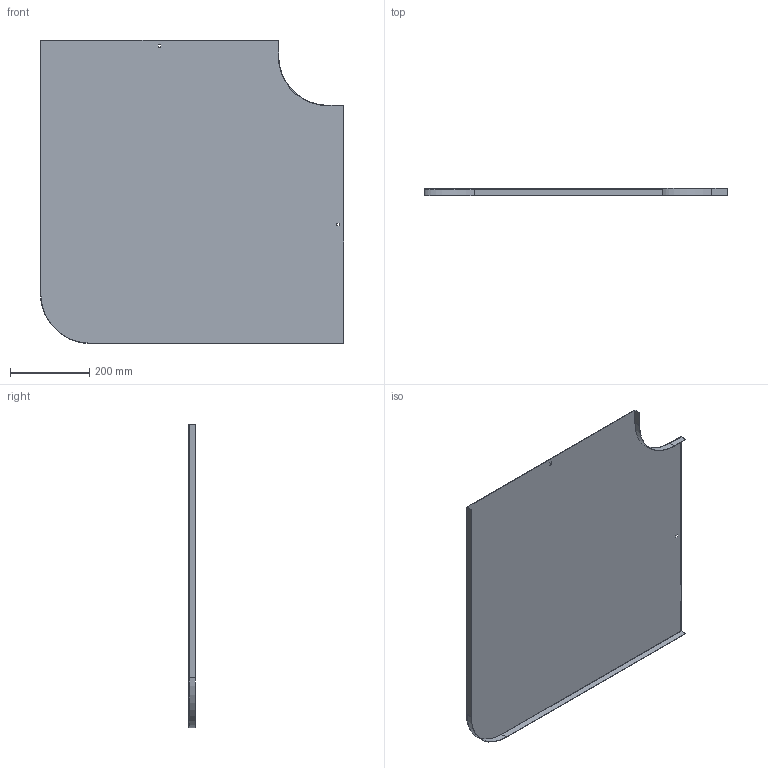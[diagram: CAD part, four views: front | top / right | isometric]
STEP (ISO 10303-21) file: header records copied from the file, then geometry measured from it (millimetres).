
FILE_DESCRIPTION (( 'STEP AP214' ), '1' );
FILE_NAME ('OP9_600.step', '2025-07-16T09:15:26', ( '' ), ( '' ), 'SwSTEP 2.0', 'SolidWorks 2023', '' );
FILE_SCHEMA (( 'AUTOMOTIVE_DESIGN' ));
Length unit declared in the file: millimetre
Products named in the file (1): OP9_600
Bounding box: 766 x 17 x 766 mm (x, y, z)
Volume: 587711.9 mm3; surface area: 1178496.5 mm2
Topology: 1 solids, 1 shells, 26 faces, 72 edges, 48 vertices
Faces by surface type: plane 22, cylinder 4
Entity records: 855 total; most frequent: CARTESIAN_POINT 147, ORIENTED_EDGE 144, DIRECTION 134, EDGE_CURVE 72, LINE 64, VECTOR 64, VERTEX_POINT 48, AXIS2_PLACEMENT_3D 35
